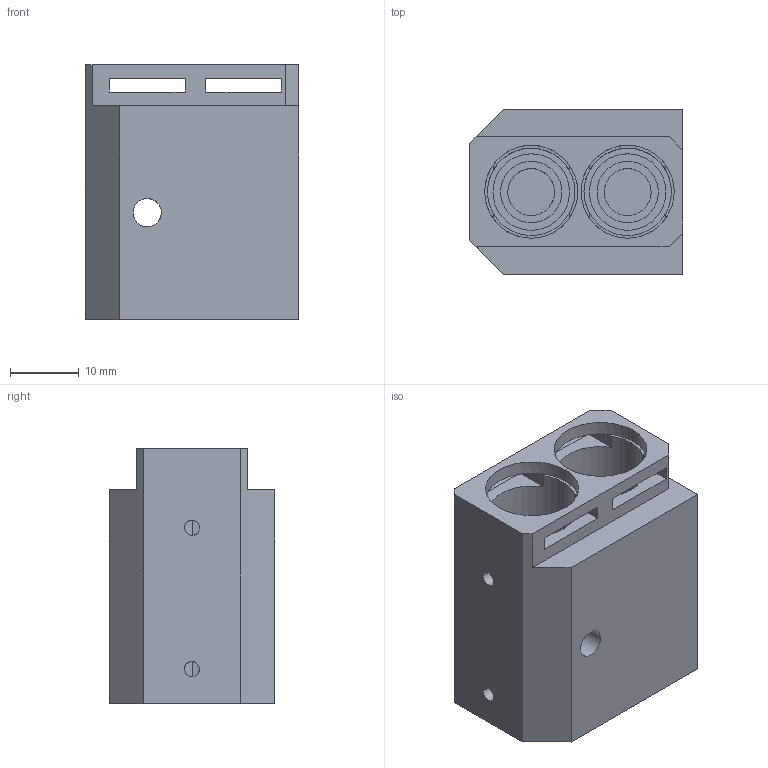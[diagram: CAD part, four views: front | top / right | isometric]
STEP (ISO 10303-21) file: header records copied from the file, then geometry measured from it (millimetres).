
FILE_DESCRIPTION(('CATIA V5 STEP Exchange'),'2;1');
FILE_NAME('C:\Users\Administrator\Desktop\LS42.11_V1 阀体.stp','2020-04-01T10:23:24+00:00',('none'),('none'),'CATIA Version 5 Release 21 GA (IN-10)','CATIA V5 STEP AP214','none');
FILE_SCHEMA(('AUTOMOTIVE_DESIGN { 1 0 10303 214 1 1 1 1 }'));
Length unit declared in the file: millimetre
Products named in the file (1): Copy (1) of 壳体
Bounding box: 31 x 24 x 37 mm (x, y, z)
Volume: 17031.3 mm3; surface area: 8375 mm2
Topology: 1 solids, 1 shells, 100 faces, 276 edges, 174 vertices
Faces by surface type: cylinder 50, plane 42, cone 8
Entity records: 3129 total; most frequent: CARTESIAN_POINT 804, ORIENTED_EDGE 544, DIRECTION 340, EDGE_CURVE 272, VERTEX_POINT 174, VECTOR 148, LINE 148, AXIS2_PLACEMENT_3D 140
